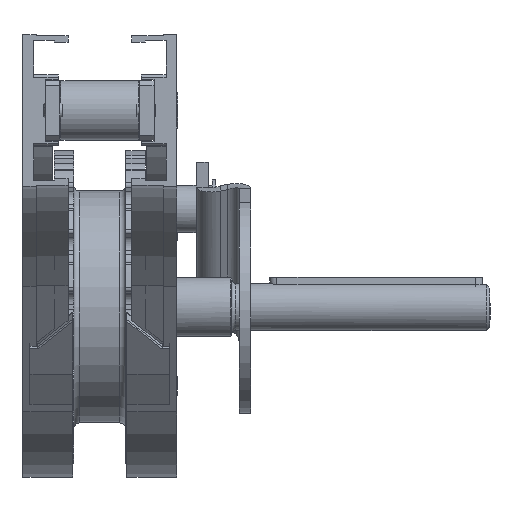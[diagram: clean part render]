
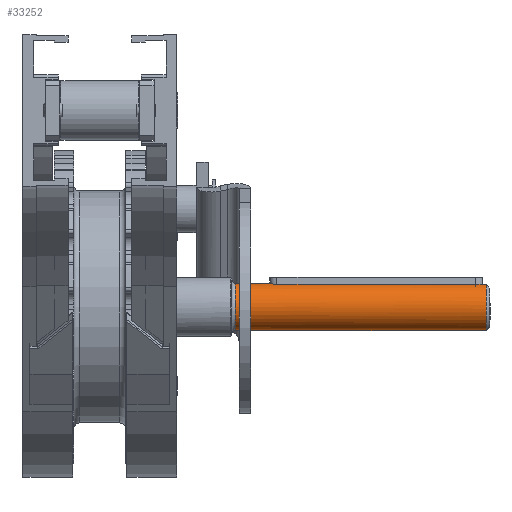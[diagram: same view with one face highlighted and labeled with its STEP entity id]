
A CAD part, left-side view. The second image highlights one B-rep face of the part: STEP entity #33252.
In plain terms, the highlighted cylindrical face has radius 10 mm (diameter 20 mm), a full revolution.
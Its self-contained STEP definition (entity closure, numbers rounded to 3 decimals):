
#739=B_SPLINE_CURVE_WITH_KNOTS('',3,(#56952,#56953,#56954,#56955,#56956,
#56957,#56958,#56959,#56960,#56961),.UNSPECIFIED.,.F.,.F.,(4,2,2,2,4),(0.,
0.114,0.228,0.341,0.455),
 .UNSPECIFIED.);
#740=B_SPLINE_CURVE_WITH_KNOTS('',3,(#56963,#56964,#56965,#56966,#56967,
#56968,#56969,#56970,#56971,#56972),.UNSPECIFIED.,.F.,.F.,(4,2,2,2,4),(0.455,
0.569,0.683,0.796,0.91),
 .UNSPECIFIED.);
#3293=FACE_OUTER_BOUND('',#5259,.T.);
#5259=EDGE_LOOP('',(#28963,#28964,#28965,#28966,#28967,#28968,#28969,#28970,
#28971,#28972,#28973,#28974));
#7842=LINE('',#56813,#10434);
#7866=LINE('',#56947,#10458);
#7867=LINE('',#56950,#10459);
#7868=LINE('',#56974,#10460);
#7869=LINE('',#56976,#10461);
#10434=VECTOR('',#46266,10.);
#10458=VECTOR('',#46352,10.);
#10459=VECTOR('',#46355,10.);
#10460=VECTOR('',#46356,10.);
#10461=VECTOR('',#46357,10.);
#12221=CIRCLE('',#36795,10.);
#12224=CIRCLE('',#36798,10.);
#12226=CIRCLE('',#36802,10.);
#12227=CIRCLE('',#36803,10.);
#15274=VERTEX_POINT('',#56809);
#15276=VERTEX_POINT('',#56812);
#15306=VERTEX_POINT('',#56935);
#15307=VERTEX_POINT('',#56936);
#15310=VERTEX_POINT('',#56946);
#15311=VERTEX_POINT('',#56949);
#15312=VERTEX_POINT('',#56951);
#15313=VERTEX_POINT('',#56962);
#15314=VERTEX_POINT('',#56973);
#15315=VERTEX_POINT('',#56975);
#19833=EDGE_CURVE('',#15276,#15274,#7842,.T.);
#19877=EDGE_CURVE('',#15306,#15307,#12221,.T.);
#19880=EDGE_CURVE('',#15307,#15306,#12224,.T.);
#19882=EDGE_CURVE('',#15306,#15310,#7866,.T.);
#19883=EDGE_CURVE('',#15276,#15310,#12226,.T.);
#19884=EDGE_CURVE('',#15274,#15311,#7867,.T.);
#19885=EDGE_CURVE('',#15311,#15312,#739,.T.);
#19886=EDGE_CURVE('',#15312,#15313,#740,.T.);
#19887=EDGE_CURVE('',#15313,#15314,#7868,.T.);
#19888=EDGE_CURVE('',#15314,#15315,#7869,.T.);
#19889=EDGE_CURVE('',#15310,#15315,#12227,.T.);
#28963=ORIENTED_EDGE('',*,*,#19877,.F.);
#28964=ORIENTED_EDGE('',*,*,#19882,.T.);
#28965=ORIENTED_EDGE('',*,*,#19883,.F.);
#28966=ORIENTED_EDGE('',*,*,#19833,.T.);
#28967=ORIENTED_EDGE('',*,*,#19884,.T.);
#28968=ORIENTED_EDGE('',*,*,#19885,.T.);
#28969=ORIENTED_EDGE('',*,*,#19886,.T.);
#28970=ORIENTED_EDGE('',*,*,#19887,.T.);
#28971=ORIENTED_EDGE('',*,*,#19888,.T.);
#28972=ORIENTED_EDGE('',*,*,#19889,.F.);
#28973=ORIENTED_EDGE('',*,*,#19882,.F.);
#28974=ORIENTED_EDGE('',*,*,#19880,.F.);
#29796=CYLINDRICAL_SURFACE('',#36801,10.);
#33252=ADVANCED_FACE('',(#3293),#29796,.T.);
#36795=AXIS2_PLACEMENT_3D('',#56937,#46338,#46339);
#36798=AXIS2_PLACEMENT_3D('',#56941,#46344,#46345);
#36801=AXIS2_PLACEMENT_3D('',#56945,#46350,#46351);
#36802=AXIS2_PLACEMENT_3D('',#56948,#46353,#46354);
#36803=AXIS2_PLACEMENT_3D('',#56977,#46358,#46359);
#46266=DIRECTION('',(0.,1.,0.));
#46338=DIRECTION('center_axis',(0.,1.,0.));
#46339=DIRECTION('ref_axis',(0.,0.,
-1.));
#46344=DIRECTION('center_axis',(0.,1.,0.));
#46345=DIRECTION('ref_axis',(0.,0.,
-1.));
#46350=DIRECTION('center_axis',(0.,1.,0.));
#46351=DIRECTION('ref_axis',(0.,0.,1.));
#46352=DIRECTION('',(0.,-1.,0.));
#46353=DIRECTION('center_axis',(0.,-1.,0.));
#46354=DIRECTION('ref_axis',(0.,0.,
-1.));
#46355=DIRECTION('',(0.,1.,0.));
#46356=DIRECTION('',(0.,-1.,0.));
#46357=DIRECTION('',(0.,-1.,0.));
#46358=DIRECTION('center_axis',(0.,-1.,0.));
#46359=DIRECTION('ref_axis',(0.,0.,
-1.));
#56809=CARTESIAN_POINT('',(-288.,-158.8,-73.461));
#56812=CARTESIAN_POINT('',(-288.,-163.3,-73.461));
#56813=CARTESIAN_POINT('',(-288.,-110.3,-73.461));
#56935=CARTESIAN_POINT('',(-285.,-57.3,-93.));
#56936=CARTESIAN_POINT('',(-275.,-57.3,-83.));
#56937=CARTESIAN_POINT('Origin',(-285.,-57.3,-83.));
#56941=CARTESIAN_POINT('Origin',(-285.,-57.3,-83.));
#56945=CARTESIAN_POINT('Origin',(-285.,-110.3,-83.));
#56946=CARTESIAN_POINT('',(-285.,-163.3,-93.));
#56947=CARTESIAN_POINT('',(-285.,-110.3,-93.));
#56948=CARTESIAN_POINT('Origin',(-285.,-163.3,-83.));
#56949=CARTESIAN_POINT('',(-288.,-74.8,-73.461));
#56950=CARTESIAN_POINT('',(-288.,-110.3,-73.461));
#56951=CARTESIAN_POINT('',(-285.,-71.8,-73.));
#56952=CARTESIAN_POINT('Ctrl Pts',(-288.,-74.8,
-73.461));
#56953=CARTESIAN_POINT('Ctrl Pts',(-288.,-74.421,
-73.461));
#56954=CARTESIAN_POINT('Ctrl Pts',(-287.924,-74.018,
-73.436));
#56955=CARTESIAN_POINT('Ctrl Pts',(-287.617,-73.28,
-73.347));
#56956=CARTESIAN_POINT('Ctrl Pts',(-287.386,-72.944,
-73.285));
#56957=CARTESIAN_POINT('Ctrl Pts',(-286.856,-72.414,
-73.17));
#56958=CARTESIAN_POINT('Ctrl Pts',(-286.521,-72.183,
-73.109));
#56959=CARTESIAN_POINT('Ctrl Pts',(-285.782,-71.876,
-73.024));
#56960=CARTESIAN_POINT('Ctrl Pts',(-285.379,-71.8,
-73.));
#56961=CARTESIAN_POINT('Ctrl Pts',(-285.,-71.8,
-73.));
#56962=CARTESIAN_POINT('',(-282.,-74.8,-73.461));
#56963=CARTESIAN_POINT('Ctrl Pts',(-285.,-71.8,
-73.));
#56964=CARTESIAN_POINT('Ctrl Pts',(-284.621,-71.8,
-73.));
#56965=CARTESIAN_POINT('Ctrl Pts',(-284.218,-71.876,
-73.024));
#56966=CARTESIAN_POINT('Ctrl Pts',(-283.479,-72.183,
-73.109));
#56967=CARTESIAN_POINT('Ctrl Pts',(-283.144,-72.414,-73.17));
#56968=CARTESIAN_POINT('Ctrl Pts',(-282.614,-72.944,
-73.285));
#56969=CARTESIAN_POINT('Ctrl Pts',(-282.383,-73.28,-73.347));
#56970=CARTESIAN_POINT('Ctrl Pts',(-282.076,-74.018,
-73.436));
#56971=CARTESIAN_POINT('Ctrl Pts',(-282.,-74.421,
-73.461));
#56972=CARTESIAN_POINT('Ctrl Pts',(-282.,-74.8,
-73.461));
#56973=CARTESIAN_POINT('',(-282.,-158.8,-73.461));
#56974=CARTESIAN_POINT('',(-282.,-110.3,-73.461));
#56975=CARTESIAN_POINT('',(-282.,-163.3,-73.461));
#56976=CARTESIAN_POINT('',(-282.,-110.3,-73.461));
#56977=CARTESIAN_POINT('Origin',(-285.,-163.3,-83.));
